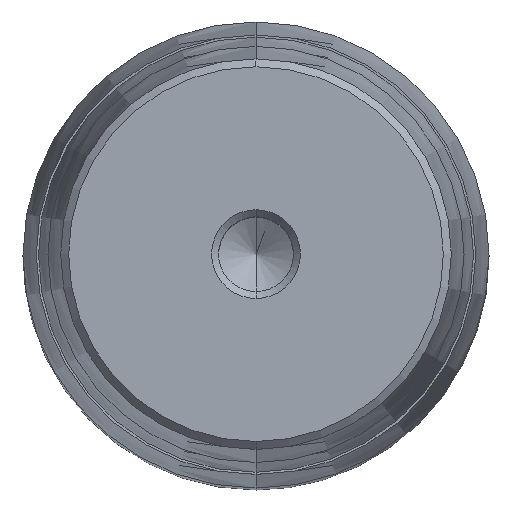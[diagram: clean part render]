
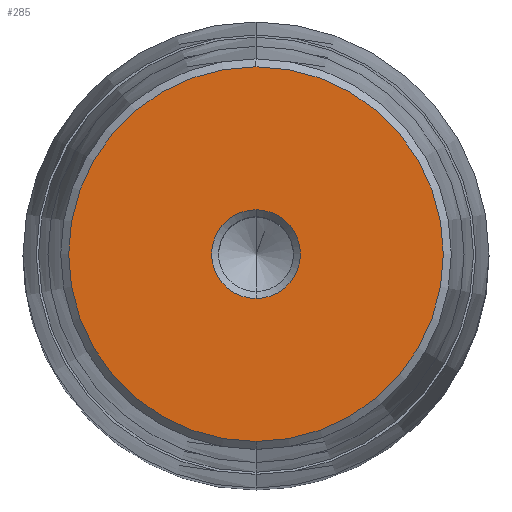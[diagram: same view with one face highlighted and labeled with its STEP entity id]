
A CAD part, top view. The second image highlights one B-rep face of the part: STEP entity #285.
In plain terms, the highlighted planar face has unit normal (0, 0, 1).
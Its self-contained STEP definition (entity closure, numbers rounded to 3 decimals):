
#164=CARTESIAN_POINT('Axis2P3D Location',(0.,0.,69.)) ;
#168=CARTESIAN_POINT('Vertex',(6.,0.,69.)) ;
#170=CARTESIAN_POINT('Vertex',(0.,-6.,69.)) ;
#173=CARTESIAN_POINT('Axis2P3D Location',(0.,0.,69.)) ;
#177=CARTESIAN_POINT('Vertex',(0.,6.,69.)) ;
#228=CARTESIAN_POINT('Axis2P3D Location',(0.,6.,69.)) ;
#233=CARTESIAN_POINT('Axis2P3D Location',(0.,0.,69.)) ;
#237=CARTESIAN_POINT('Vertex',(0.,25.325,69.)) ;
#239=CARTESIAN_POINT('Vertex',(25.325,0.,69.)) ;
#242=CARTESIAN_POINT('Axis2P3D Location',(0.,0.,69.)) ;
#246=CARTESIAN_POINT('Vertex',(-25.325,0.,69.)) ;
#249=CARTESIAN_POINT('Axis2P3D Location',(0.,0.,69.)) ;
#253=CARTESIAN_POINT('Vertex',(0.,-25.325,69.)) ;
#256=CARTESIAN_POINT('Axis2P3D Location',(0.,0.,69.)) ;
#267=CARTESIAN_POINT('Axis2P3D Location',(0.,0.,69.)) ;
#271=CARTESIAN_POINT('Vertex',(-6.,0.,69.)) ;
#274=CARTESIAN_POINT('Axis2P3D Location',(0.,0.,69.)) ;
#165=DIRECTION('Axis2P3D Direction',(0.,0.,1.)) ;
#174=DIRECTION('Axis2P3D Direction',(0.,0.,1.)) ;
#229=DIRECTION('Axis2P3D Direction',(-0.,0.,-1.)) ;
#230=DIRECTION('Axis2P3D XDirection',(0.,1.,0.)) ;
#234=DIRECTION('Axis2P3D Direction',(-0.,0.,-1.)) ;
#243=DIRECTION('Axis2P3D Direction',(-0.,0.,-1.)) ;
#250=DIRECTION('Axis2P3D Direction',(-0.,0.,-1.)) ;
#257=DIRECTION('Axis2P3D Direction',(-0.,0.,-1.)) ;
#268=DIRECTION('Axis2P3D Direction',(-0.,0.,-1.)) ;
#275=DIRECTION('Axis2P3D Direction',(-0.,0.,-1.)) ;
#166=AXIS2_PLACEMENT_3D('Circle Axis2P3D',#164,#165,$) ;
#175=AXIS2_PLACEMENT_3D('Circle Axis2P3D',#173,#174,$) ;
#231=AXIS2_PLACEMENT_3D('Plane Axis2P3D',#228,#229,#230) ;
#235=AXIS2_PLACEMENT_3D('Circle Axis2P3D',#233,#234,$) ;
#244=AXIS2_PLACEMENT_3D('Circle Axis2P3D',#242,#243,$) ;
#251=AXIS2_PLACEMENT_3D('Circle Axis2P3D',#249,#250,$) ;
#258=AXIS2_PLACEMENT_3D('Circle Axis2P3D',#256,#257,$) ;
#269=AXIS2_PLACEMENT_3D('Circle Axis2P3D',#267,#268,$) ;
#276=AXIS2_PLACEMENT_3D('Circle Axis2P3D',#274,#275,$) ;
#262=ORIENTED_EDGE('',*,*,#241,.F.) ;
#263=ORIENTED_EDGE('',*,*,#248,.F.) ;
#264=ORIENTED_EDGE('',*,*,#255,.F.) ;
#265=ORIENTED_EDGE('',*,*,#260,.F.) ;
#280=ORIENTED_EDGE('',*,*,#172,.T.) ;
#281=ORIENTED_EDGE('',*,*,#273,.T.) ;
#282=ORIENTED_EDGE('',*,*,#278,.T.) ;
#283=ORIENTED_EDGE('',*,*,#179,.T.) ;
#284=FACE_BOUND('',#279,.T.) ;
#285=ADVANCED_FACE('722-63x180x231',(#266,#284),#232,.F.) ;
#167=CIRCLE('generated circle',#166,6.) ;
#176=CIRCLE('generated circle',#175,6.) ;
#236=CIRCLE('generated circle',#235,25.325) ;
#245=CIRCLE('generated circle',#244,25.325) ;
#252=CIRCLE('generated circle',#251,25.325) ;
#259=CIRCLE('generated circle',#258,25.325) ;
#270=CIRCLE('generated circle',#269,6.) ;
#277=CIRCLE('generated circle',#276,6.) ;
#172=EDGE_CURVE('',#169,#171,#167,.F.) ;
#179=EDGE_CURVE('',#178,#169,#176,.F.) ;
#241=EDGE_CURVE('',#238,#240,#236,.T.) ;
#248=EDGE_CURVE('',#247,#238,#245,.T.) ;
#255=EDGE_CURVE('',#254,#247,#252,.T.) ;
#260=EDGE_CURVE('',#240,#254,#259,.T.) ;
#273=EDGE_CURVE('',#171,#272,#270,.T.) ;
#278=EDGE_CURVE('',#272,#178,#277,.T.) ;
#261=EDGE_LOOP('',(#262,#263,#264,#265)) ;
#279=EDGE_LOOP('',(#280,#281,#282,#283)) ;
#266=FACE_OUTER_BOUND('',#261,.T.) ;
#232=PLANE('Plane',#231) ;
#169=VERTEX_POINT('',#168) ;
#171=VERTEX_POINT('',#170) ;
#178=VERTEX_POINT('',#177) ;
#238=VERTEX_POINT('',#237) ;
#240=VERTEX_POINT('',#239) ;
#247=VERTEX_POINT('',#246) ;
#254=VERTEX_POINT('',#253) ;
#272=VERTEX_POINT('',#271) ;
